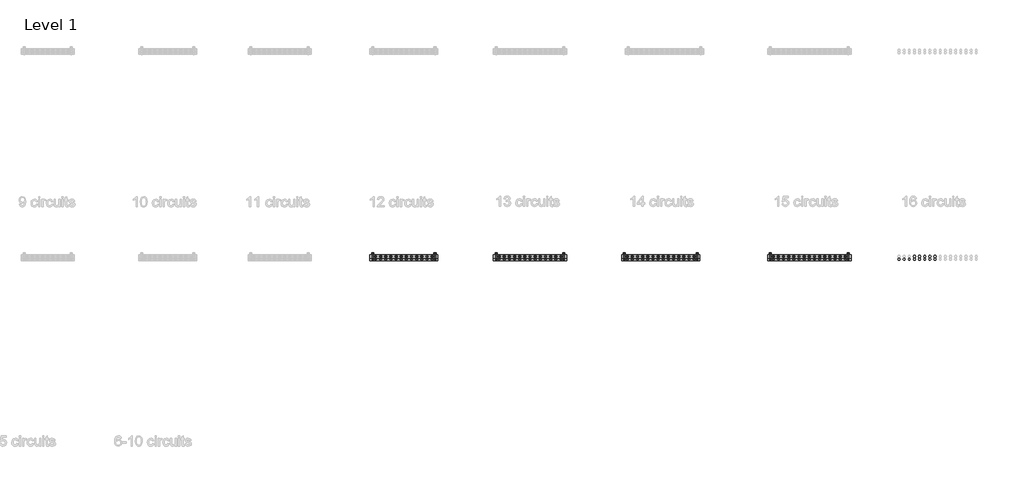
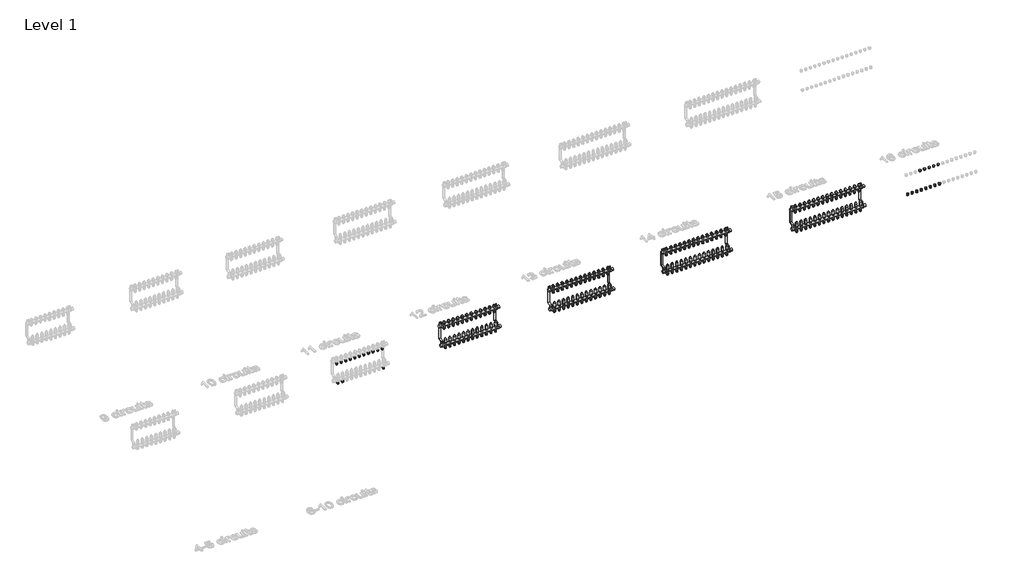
# One storey, part 2 of 13: 135 pipe fittings, 4 valves.
"""IFC4 building model written with IfcOpenShell, lengths in millimetres."""

from ifc_helpers import new_model, si_unit, origin, place, context, project, spatial, transform, mapped, element, save
from components import pipe_fitting_03c6499f, valve_b043caab, valve_d1a48dd4, valve_8c27288c, valve_323f5917, valve_2908c385, valve_c6b07a0e, valve_afcc5f03, valve_d5daf2db, valve_eef75e3c, valve_ba84b301, valve_6797e1c4, valve_e0eb0583, valve_b42ebe50, valve_7d993025, valve_5755080d, valve_f9b138b1

model = new_model("IFC4")

# Units and contexts
model_context = context("Model", 3, world=origin())
ifc_project = project(units=[si_unit("LENGTHUNIT", "METRE", prefix="MILLI")], contexts=[model_context])

# Site, building, storey
site = spatial("IfcSite", under=ifc_project)
building = spatial("IfcBuilding", under=site)
storey = spatial("IfcBuildingStorey", under=building, Name="Level 1", Elevation=0.0)

# Pipe fittings
placement = place(None, origin())
pipe_fitting_shape = pipe_fitting_03c6499f(model_context)
element("IfcPipeFitting", 1, ObjectType="Euroconus screwing for multilayer pipes - Manifold FT : Euroconus screwing for multilayer pipes - Manifold FT", at=placement, inside=storey, context=model_context, shape_type="MappedRepresentation", body=[
    mapped(pipe_fitting_shape, transform((10407.2354504, -417.6772226, -37.0816103), x_axis=(0.0, 0.0, -1.0), y_axis=(0.0, 1.0000000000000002, 0.0), z_axis=(1.0000000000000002, 0.0, 0.0))),
])
element("IfcPipeFitting", 2, ObjectType="Euroconus screwing for multilayer pipes - Manifold FT : Euroconus screwing for multilayer pipes - Manifold FT", at=placement, inside=storey, context=model_context, shape_type="MappedRepresentation", body=[
    mapped(pipe_fitting_shape, transform((10857.2354504, -417.6772226, -37.0816103), x_axis=(0.0, 0.0, -1.0), y_axis=(0.0, 1.0000000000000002, 0.0), z_axis=(1.0000000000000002, 0.0, 0.0))),
])
element("IfcPipeFitting", 3, ObjectType="Euroconus screwing for multilayer pipes - Manifold FT : Euroconus screwing for multilayer pipes - Manifold FT", at=placement, inside=storey, context=model_context, shape_type="MappedRepresentation", body=[
    mapped(pipe_fitting_shape, transform((10357.2354504, -417.6772226, -37.0816103), x_axis=(0.0, 0.0, -1.0), y_axis=(0.0, 1.0000000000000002, 0.0), z_axis=(1.0000000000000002, 0.0, 0.0))),
])
element("IfcPipeFitting", 4, ObjectType="Euroconus screwing for multilayer pipes - Manifold FT : Euroconus screwing for multilayer pipes - Manifold FT", at=placement, inside=storey, context=model_context, shape_type="MappedRepresentation", body=[
    mapped(pipe_fitting_shape, transform((10807.2354504, -392.6772226, 172.88733), x_axis=(0.0, 0.0, -1.0), y_axis=(0.0, 1.0000000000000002, 0.0), z_axis=(1.0000000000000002, 0.0, 0.0))),
])
element("IfcPipeFitting", 5, ObjectType="Euroconus screwing for multilayer pipes - Manifold FT : Euroconus screwing for multilayer pipes - Manifold FT", at=placement, inside=storey, context=model_context, shape_type="MappedRepresentation", body=[
    mapped(pipe_fitting_shape, transform((10757.2354504, -392.6772226, 172.88733), x_axis=(0.0, 0.0, -1.0), y_axis=(0.0, 1.0000000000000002, 0.0), z_axis=(1.0000000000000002, 0.0, 0.0))),
])
element("IfcPipeFitting", 6, ObjectType="Euroconus screwing for multilayer pipes - Manifold FT : Euroconus screwing for multilayer pipes - Manifold FT", at=placement, inside=storey, context=model_context, shape_type="MappedRepresentation", body=[
    mapped(pipe_fitting_shape, transform((10707.2354504, -392.6772226, 172.88733), x_axis=(0.0, 0.0, -1.0), y_axis=(0.0, 1.0000000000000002, 0.0), z_axis=(1.0000000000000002, 0.0, 0.0))),
])
element("IfcPipeFitting", 7, ObjectType="Euroconus screwing for multilayer pipes - Manifold FT : Euroconus screwing for multilayer pipes - Manifold FT", at=placement, inside=storey, context=model_context, shape_type="MappedRepresentation", body=[
    mapped(pipe_fitting_shape, transform((10657.2354504, -392.6772226, 172.88733), x_axis=(0.0, 0.0, -1.0), y_axis=(0.0, 1.0000000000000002, 0.0), z_axis=(1.0000000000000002, 0.0, 0.0))),
])
element("IfcPipeFitting", 8, ObjectType="Euroconus screwing for multilayer pipes - Manifold FT : Euroconus screwing for multilayer pipes - Manifold FT", at=placement, inside=storey, context=model_context, shape_type="MappedRepresentation", body=[
    mapped(pipe_fitting_shape, transform((10607.2354504, -392.6772226, 172.88733), x_axis=(0.0, 0.0, -1.0), y_axis=(0.0, 1.0000000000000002, 0.0), z_axis=(1.0000000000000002, 0.0, 0.0))),
])
element("IfcPipeFitting", 9, ObjectType="Euroconus screwing for multilayer pipes - Manifold FT : Euroconus screwing for multilayer pipes - Manifold FT", at=placement, inside=storey, context=model_context, shape_type="MappedRepresentation", body=[
    mapped(pipe_fitting_shape, transform((10557.2354504, -392.6772226, 172.88733), x_axis=(0.0, 0.0, -1.0), y_axis=(0.0, 1.0000000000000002, 0.0), z_axis=(1.0000000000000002, 0.0, 0.0))),
])
element("IfcPipeFitting", 10, ObjectType="Euroconus screwing for multilayer pipes - Manifold FT : Euroconus screwing for multilayer pipes - Manifold FT", at=placement, inside=storey, context=model_context, shape_type="MappedRepresentation", body=[
    mapped(pipe_fitting_shape, transform((10507.2354504, -392.6772226, 172.88733), x_axis=(0.0, 0.0, -1.0), y_axis=(0.0, 1.0000000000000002, 0.0), z_axis=(1.0000000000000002, 0.0, 0.0))),
])
element("IfcPipeFitting", 11, ObjectType="Euroconus screwing for multilayer pipes - Manifold FT : Euroconus screwing for multilayer pipes - Manifold FT", at=placement, inside=storey, context=model_context, shape_type="MappedRepresentation", body=[
    mapped(pipe_fitting_shape, transform((10457.2354504, -392.6772226, 172.88733), x_axis=(0.0, 0.0, -1.0), y_axis=(0.0, 1.0000000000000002, 0.0), z_axis=(1.0000000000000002, 0.0, 0.0))),
])
element("IfcPipeFitting", 12, ObjectType="Euroconus screwing for multilayer pipes - Manifold FT : Euroconus screwing for multilayer pipes - Manifold FT", at=placement, inside=storey, context=model_context, shape_type="MappedRepresentation", body=[
    mapped(pipe_fitting_shape, transform((10407.2354504, -392.6772226, 172.88733), x_axis=(0.0, 0.0, -1.0), y_axis=(0.0, 1.0000000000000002, 0.0), z_axis=(1.0000000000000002, 0.0, 0.0))),
])
element("IfcPipeFitting", 13, ObjectType="Euroconus screwing for multilayer pipes - Manifold FT : Euroconus screwing for multilayer pipes - Manifold FT", at=placement, inside=storey, context=model_context, shape_type="MappedRepresentation", body=[
    mapped(pipe_fitting_shape, transform((10857.2354504, -392.6772226, 172.88733), x_axis=(0.0, 0.0, -1.0), y_axis=(0.0, 1.0000000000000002, 0.0), z_axis=(1.0000000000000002, 0.0, 0.0))),
])
element("IfcPipeFitting", 14, ObjectType="Euroconus screwing for multilayer pipes - Manifold FT : Euroconus screwing for multilayer pipes - Manifold FT", at=placement, inside=storey, context=model_context, shape_type="MappedRepresentation", body=[
    mapped(pipe_fitting_shape, transform((10357.2354504, -392.6772226, 172.88733), x_axis=(0.0, 0.0, -1.0), y_axis=(0.0, 1.0000000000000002, 0.0), z_axis=(1.0000000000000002, 0.0, 0.0))),
])
element("IfcPipeFitting", 15, ObjectType="Euroconus screwing for multilayer pipes - Manifold FT : Euroconus screwing for multilayer pipes - Manifold FT", at=placement, inside=storey, context=model_context, shape_type="MappedRepresentation", body=[
    mapped(pipe_fitting_shape, transform((12037.2354504, -417.6772226, -37.0816103), x_axis=(0.0, 0.0, -1.0), y_axis=(0.0, 1.0000000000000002, 0.0), z_axis=(1.0000000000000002, 0.0, 0.0))),
])
element("IfcPipeFitting", 16, ObjectType="Euroconus screwing for multilayer pipes - Manifold FT : Euroconus screwing for multilayer pipes - Manifold FT", at=placement, inside=storey, context=model_context, shape_type="MappedRepresentation", body=[
    mapped(pipe_fitting_shape, transform((11987.2354504, -417.6772226, -37.0816103), x_axis=(0.0, 0.0, -1.0), y_axis=(0.0, 1.0000000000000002, 0.0), z_axis=(1.0000000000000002, 0.0, 0.0))),
])
element("IfcPipeFitting", 17, ObjectType="Euroconus screwing for multilayer pipes - Manifold FT : Euroconus screwing for multilayer pipes - Manifold FT", at=placement, inside=storey, context=model_context, shape_type="MappedRepresentation", body=[
    mapped(pipe_fitting_shape, transform((11937.2354504, -417.6772226, -37.0816103), x_axis=(0.0, 0.0, -1.0), y_axis=(0.0, 1.0000000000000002, 0.0), z_axis=(1.0000000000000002, 0.0, 0.0))),
])
element("IfcPipeFitting", 18, ObjectType="Euroconus screwing for multilayer pipes - Manifold FT : Euroconus screwing for multilayer pipes - Manifold FT", at=placement, inside=storey, context=model_context, shape_type="MappedRepresentation", body=[
    mapped(pipe_fitting_shape, transform((11887.2354504, -417.6772226, -37.0816103), x_axis=(0.0, 0.0, -1.0), y_axis=(0.0, 1.0000000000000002, 0.0), z_axis=(1.0000000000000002, 0.0, 0.0))),
])
element("IfcPipeFitting", 19, ObjectType="Euroconus screwing for multilayer pipes - Manifold FT : Euroconus screwing for multilayer pipes - Manifold FT", at=placement, inside=storey, context=model_context, shape_type="MappedRepresentation", body=[
    mapped(pipe_fitting_shape, transform((11837.2354504, -417.6772226, -37.0816103), x_axis=(0.0, 0.0, -1.0), y_axis=(0.0, 1.0000000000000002, 0.0), z_axis=(1.0000000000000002, 0.0, 0.0))),
])
element("IfcPipeFitting", 20, ObjectType="Euroconus screwing for multilayer pipes - Manifold FT : Euroconus screwing for multilayer pipes - Manifold FT", at=placement, inside=storey, context=model_context, shape_type="MappedRepresentation", body=[
    mapped(pipe_fitting_shape, transform((11787.2354504, -417.6772226, -37.0816103), x_axis=(0.0, 0.0, -1.0), y_axis=(0.0, 1.0000000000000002, 0.0), z_axis=(1.0000000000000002, 0.0, 0.0))),
])
element("IfcPipeFitting", 21, ObjectType="Euroconus screwing for multilayer pipes - Manifold FT : Euroconus screwing for multilayer pipes - Manifold FT", at=placement, inside=storey, context=model_context, shape_type="MappedRepresentation", body=[
    mapped(pipe_fitting_shape, transform((11737.2354504, -417.6772226, -37.0816103), x_axis=(0.0, 0.0, -1.0), y_axis=(0.0, 1.0000000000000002, 0.0), z_axis=(1.0000000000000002, 0.0, 0.0))),
])
element("IfcPipeFitting", 22, ObjectType="Euroconus screwing for multilayer pipes - Manifold FT : Euroconus screwing for multilayer pipes - Manifold FT", at=placement, inside=storey, context=model_context, shape_type="MappedRepresentation", body=[
    mapped(pipe_fitting_shape, transform((11687.2354504, -417.6772226, -37.0816103), x_axis=(0.0, 0.0, -1.0), y_axis=(0.0, 1.0000000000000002, 0.0), z_axis=(1.0000000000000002, 0.0, 0.0))),
])
element("IfcPipeFitting", 23, ObjectType="Euroconus screwing for multilayer pipes - Manifold FT : Euroconus screwing for multilayer pipes - Manifold FT", at=placement, inside=storey, context=model_context, shape_type="MappedRepresentation", body=[
    mapped(pipe_fitting_shape, transform((11637.2354504, -417.6772226, -37.0816103), x_axis=(0.0, 0.0, -1.0), y_axis=(0.0, 1.0000000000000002, 0.0), z_axis=(1.0000000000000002, 0.0, 0.0))),
])
element("IfcPipeFitting", 24, ObjectType="Euroconus screwing for multilayer pipes - Manifold FT : Euroconus screwing for multilayer pipes - Manifold FT", at=placement, inside=storey, context=model_context, shape_type="MappedRepresentation", body=[
    mapped(pipe_fitting_shape, transform((11587.2354504, -417.6772226, -37.0816103), x_axis=(0.0, 0.0, -1.0), y_axis=(0.0, 1.0000000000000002, 0.0), z_axis=(1.0000000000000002, 0.0, 0.0))),
])
element("IfcPipeFitting", 25, ObjectType="Euroconus screwing for multilayer pipes - Manifold FT : Euroconus screwing for multilayer pipes - Manifold FT", at=placement, inside=storey, context=model_context, shape_type="MappedRepresentation", body=[
    mapped(pipe_fitting_shape, transform((12087.2354504, -417.6772226, -37.0816103), x_axis=(0.0, 0.0, -1.0), y_axis=(0.0, 1.0000000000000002, 0.0), z_axis=(1.0000000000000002, 0.0, 0.0))),
])
element("IfcPipeFitting", 26, ObjectType="Euroconus screwing for multilayer pipes - Manifold FT : Euroconus screwing for multilayer pipes - Manifold FT", at=placement, inside=storey, context=model_context, shape_type="MappedRepresentation", body=[
    mapped(pipe_fitting_shape, transform((11537.2354504, -417.6772226, -37.0816103), x_axis=(0.0, 0.0, -1.0), y_axis=(0.0, 1.0000000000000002, 0.0), z_axis=(1.0000000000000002, 0.0, 0.0))),
])
element("IfcPipeFitting", 27, ObjectType="Euroconus screwing for multilayer pipes - Manifold FT : Euroconus screwing for multilayer pipes - Manifold FT", at=placement, inside=storey, context=model_context, shape_type="MappedRepresentation", body=[
    mapped(pipe_fitting_shape, transform((12037.2354504, -392.6772226, 172.88733), x_axis=(0.0, 0.0, -1.0), y_axis=(0.0, 1.0000000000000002, 0.0), z_axis=(1.0000000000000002, 0.0, 0.0))),
])
element("IfcPipeFitting", 28, ObjectType="Euroconus screwing for multilayer pipes - Manifold FT : Euroconus screwing for multilayer pipes - Manifold FT", at=placement, inside=storey, context=model_context, shape_type="MappedRepresentation", body=[
    mapped(pipe_fitting_shape, transform((11987.2354504, -392.6772226, 172.88733), x_axis=(0.0, 0.0, -1.0), y_axis=(0.0, 1.0000000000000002, 0.0), z_axis=(1.0000000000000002, 0.0, 0.0))),
])
element("IfcPipeFitting", 29, ObjectType="Euroconus screwing for multilayer pipes - Manifold FT : Euroconus screwing for multilayer pipes - Manifold FT", at=placement, inside=storey, context=model_context, shape_type="MappedRepresentation", body=[
    mapped(pipe_fitting_shape, transform((11937.2354504, -392.6772226, 172.88733), x_axis=(0.0, 0.0, -1.0), y_axis=(0.0, 1.0000000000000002, 0.0), z_axis=(1.0000000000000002, 0.0, 0.0))),
])
element("IfcPipeFitting", 30, ObjectType="Euroconus screwing for multilayer pipes - Manifold FT : Euroconus screwing for multilayer pipes - Manifold FT", at=placement, inside=storey, context=model_context, shape_type="MappedRepresentation", body=[
    mapped(pipe_fitting_shape, transform((11887.2354504, -392.6772226, 172.88733), x_axis=(0.0, 0.0, -1.0), y_axis=(0.0, 1.0000000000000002, 0.0), z_axis=(1.0000000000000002, 0.0, 0.0))),
])
element("IfcPipeFitting", 31, ObjectType="Euroconus screwing for multilayer pipes - Manifold FT : Euroconus screwing for multilayer pipes - Manifold FT", at=placement, inside=storey, context=model_context, shape_type="MappedRepresentation", body=[
    mapped(pipe_fitting_shape, transform((11837.2354504, -392.6772226, 172.88733), x_axis=(0.0, 0.0, -1.0), y_axis=(0.0, 1.0000000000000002, 0.0), z_axis=(1.0000000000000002, 0.0, 0.0))),
])
element("IfcPipeFitting", 32, ObjectType="Euroconus screwing for multilayer pipes - Manifold FT : Euroconus screwing for multilayer pipes - Manifold FT", at=placement, inside=storey, context=model_context, shape_type="MappedRepresentation", body=[
    mapped(pipe_fitting_shape, transform((11787.2354504, -392.6772226, 172.88733), x_axis=(0.0, 0.0, -1.0), y_axis=(0.0, 1.0000000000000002, 0.0), z_axis=(1.0000000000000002, 0.0, 0.0))),
])
element("IfcPipeFitting", 33, ObjectType="Euroconus screwing for multilayer pipes - Manifold FT : Euroconus screwing for multilayer pipes - Manifold FT", at=placement, inside=storey, context=model_context, shape_type="MappedRepresentation", body=[
    mapped(pipe_fitting_shape, transform((11737.2354504, -392.6772226, 172.88733), x_axis=(0.0, 0.0, -1.0), y_axis=(0.0, 1.0000000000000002, 0.0), z_axis=(1.0000000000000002, 0.0, 0.0))),
])
element("IfcPipeFitting", 34, ObjectType="Euroconus screwing for multilayer pipes - Manifold FT : Euroconus screwing for multilayer pipes - Manifold FT", at=placement, inside=storey, context=model_context, shape_type="MappedRepresentation", body=[
    mapped(pipe_fitting_shape, transform((11687.2354504, -392.6772226, 172.88733), x_axis=(0.0, 0.0, -1.0), y_axis=(0.0, 1.0000000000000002, 0.0), z_axis=(1.0000000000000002, 0.0, 0.0))),
])
element("IfcPipeFitting", 35, ObjectType="Euroconus screwing for multilayer pipes - Manifold FT : Euroconus screwing for multilayer pipes - Manifold FT", at=placement, inside=storey, context=model_context, shape_type="MappedRepresentation", body=[
    mapped(pipe_fitting_shape, transform((11637.2354504, -392.6772226, 172.88733), x_axis=(0.0, 0.0, -1.0), y_axis=(0.0, 1.0000000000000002, 0.0), z_axis=(1.0000000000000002, 0.0, 0.0))),
])
element("IfcPipeFitting", 36, ObjectType="Euroconus screwing for multilayer pipes - Manifold FT : Euroconus screwing for multilayer pipes - Manifold FT", at=placement, inside=storey, context=model_context, shape_type="MappedRepresentation", body=[
    mapped(pipe_fitting_shape, transform((11587.2354504, -392.6772226, 172.88733), x_axis=(0.0, 0.0, -1.0), y_axis=(0.0, 1.0000000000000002, 0.0), z_axis=(1.0000000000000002, 0.0, 0.0))),
])
element("IfcPipeFitting", 37, ObjectType="Euroconus screwing for multilayer pipes - Manifold FT : Euroconus screwing for multilayer pipes - Manifold FT", at=placement, inside=storey, context=model_context, shape_type="MappedRepresentation", body=[
    mapped(pipe_fitting_shape, transform((12087.2354504, -392.6772226, 172.88733), x_axis=(0.0, 0.0, -1.0), y_axis=(0.0, 1.0000000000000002, 0.0), z_axis=(1.0000000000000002, 0.0, 0.0))),
])
element("IfcPipeFitting", 38, ObjectType="Euroconus screwing for multilayer pipes - Manifold FT : Euroconus screwing for multilayer pipes - Manifold FT", at=placement, inside=storey, context=model_context, shape_type="MappedRepresentation", body=[
    mapped(pipe_fitting_shape, transform((11537.2354504, -392.6772226, 172.88733), x_axis=(0.0, 0.0, -1.0), y_axis=(0.0, 1.0000000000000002, 0.0), z_axis=(1.0000000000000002, 0.0, 0.0))),
])
element("IfcPipeFitting", 39, ObjectType="Euroconus screwing for multilayer pipes - Manifold FT : Euroconus screwing for multilayer pipes - Manifold FT", at=placement, inside=storey, context=model_context, shape_type="MappedRepresentation", body=[
    mapped(pipe_fitting_shape, transform((13287.2354504, -417.6772226, -37.0816103), x_axis=(0.0, 0.0, -1.0), y_axis=(0.0, 1.0000000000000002, 0.0), z_axis=(1.0000000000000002, 0.0, 0.0))),
])
element("IfcPipeFitting", 40, ObjectType="Euroconus screwing for multilayer pipes - Manifold FT : Euroconus screwing for multilayer pipes - Manifold FT", at=placement, inside=storey, context=model_context, shape_type="MappedRepresentation", body=[
    mapped(pipe_fitting_shape, transform((13237.2354504, -417.6772226, -37.0816103), x_axis=(0.0, 0.0, -1.0), y_axis=(0.0, 1.0000000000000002, 0.0), z_axis=(1.0000000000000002, 0.0, 0.0))),
])
element("IfcPipeFitting", 41, ObjectType="Euroconus screwing for multilayer pipes - Manifold FT : Euroconus screwing for multilayer pipes - Manifold FT", at=placement, inside=storey, context=model_context, shape_type="MappedRepresentation", body=[
    mapped(pipe_fitting_shape, transform((13187.2354504, -417.6772226, -37.0816103), x_axis=(0.0, 0.0, -1.0), y_axis=(0.0, 1.0000000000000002, 0.0), z_axis=(1.0000000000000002, 0.0, 0.0))),
])
element("IfcPipeFitting", 42, ObjectType="Euroconus screwing for multilayer pipes - Manifold FT : Euroconus screwing for multilayer pipes - Manifold FT", at=placement, inside=storey, context=model_context, shape_type="MappedRepresentation", body=[
    mapped(pipe_fitting_shape, transform((13137.2354504, -417.6772226, -37.0816103), x_axis=(0.0, 0.0, -1.0), y_axis=(0.0, 1.0000000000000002, 0.0), z_axis=(1.0000000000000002, 0.0, 0.0))),
])
element("IfcPipeFitting", 43, ObjectType="Euroconus screwing for multilayer pipes - Manifold FT : Euroconus screwing for multilayer pipes - Manifold FT", at=placement, inside=storey, context=model_context, shape_type="MappedRepresentation", body=[
    mapped(pipe_fitting_shape, transform((13087.2354504, -417.6772226, -37.0816103), x_axis=(0.0, 0.0, -1.0), y_axis=(0.0, 1.0000000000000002, 0.0), z_axis=(1.0000000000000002, 0.0, 0.0))),
])
element("IfcPipeFitting", 44, ObjectType="Euroconus screwing for multilayer pipes - Manifold FT : Euroconus screwing for multilayer pipes - Manifold FT", at=placement, inside=storey, context=model_context, shape_type="MappedRepresentation", body=[
    mapped(pipe_fitting_shape, transform((13037.2354504, -417.6772226, -37.0816103), x_axis=(0.0, 0.0, -1.0), y_axis=(0.0, 1.0000000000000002, 0.0), z_axis=(1.0000000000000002, 0.0, 0.0))),
])
element("IfcPipeFitting", 45, ObjectType="Euroconus screwing for multilayer pipes - Manifold FT : Euroconus screwing for multilayer pipes - Manifold FT", at=placement, inside=storey, context=model_context, shape_type="MappedRepresentation", body=[
    mapped(pipe_fitting_shape, transform((12987.2354504, -417.6772226, -37.0816103), x_axis=(0.0, 0.0, -1.0), y_axis=(0.0, 1.0000000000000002, 0.0), z_axis=(1.0000000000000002, 0.0, 0.0))),
])
element("IfcPipeFitting", 46, ObjectType="Euroconus screwing for multilayer pipes - Manifold FT : Euroconus screwing for multilayer pipes - Manifold FT", at=placement, inside=storey, context=model_context, shape_type="MappedRepresentation", body=[
    mapped(pipe_fitting_shape, transform((12937.2354504, -417.6772226, -37.0816103), x_axis=(0.0, 0.0, -1.0), y_axis=(0.0, 1.0000000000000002, 0.0), z_axis=(1.0000000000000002, 0.0, 0.0))),
])
element("IfcPipeFitting", 47, ObjectType="Euroconus screwing for multilayer pipes - Manifold FT : Euroconus screwing for multilayer pipes - Manifold FT", at=placement, inside=storey, context=model_context, shape_type="MappedRepresentation", body=[
    mapped(pipe_fitting_shape, transform((12887.2354504, -417.6772226, -37.0816103), x_axis=(0.0, 0.0, -1.0), y_axis=(0.0, 1.0000000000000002, 0.0), z_axis=(1.0000000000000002, 0.0, 0.0))),
])
element("IfcPipeFitting", 48, ObjectType="Euroconus screwing for multilayer pipes - Manifold FT : Euroconus screwing for multilayer pipes - Manifold FT", at=placement, inside=storey, context=model_context, shape_type="MappedRepresentation", body=[
    mapped(pipe_fitting_shape, transform((12837.2354504, -417.6772226, -37.0816103), x_axis=(0.0, 0.0, -1.0), y_axis=(0.0, 1.0000000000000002, 0.0), z_axis=(1.0000000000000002, 0.0, 0.0))),
])
element("IfcPipeFitting", 49, ObjectType="Euroconus screwing for multilayer pipes - Manifold FT : Euroconus screwing for multilayer pipes - Manifold FT", at=placement, inside=storey, context=model_context, shape_type="MappedRepresentation", body=[
    mapped(pipe_fitting_shape, transform((12787.2354504, -417.6772226, -37.0816103), x_axis=(0.0, 0.0, -1.0), y_axis=(0.0, 1.0000000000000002, 0.0), z_axis=(1.0000000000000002, 0.0, 0.0))),
])
element("IfcPipeFitting", 50, ObjectType="Euroconus screwing for multilayer pipes - Manifold FT : Euroconus screwing for multilayer pipes - Manifold FT", at=placement, inside=storey, context=model_context, shape_type="MappedRepresentation", body=[
    mapped(pipe_fitting_shape, transform((13337.2354504, -417.6772226, -37.0816103), x_axis=(0.0, 0.0, -1.0), y_axis=(0.0, 1.0000000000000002, 0.0), z_axis=(1.0000000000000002, 0.0, 0.0))),
])
element("IfcPipeFitting", 51, ObjectType="Euroconus screwing for multilayer pipes - Manifold FT : Euroconus screwing for multilayer pipes - Manifold FT", at=placement, inside=storey, context=model_context, shape_type="MappedRepresentation", body=[
    mapped(pipe_fitting_shape, transform((12737.2354504, -417.6772226, -37.0816103), x_axis=(0.0, 0.0, -1.0), y_axis=(0.0, 1.0000000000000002, 0.0), z_axis=(1.0000000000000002, 0.0, 0.0))),
])
element("IfcPipeFitting", 52, ObjectType="Euroconus screwing for multilayer pipes - Manifold FT : Euroconus screwing for multilayer pipes - Manifold FT", at=placement, inside=storey, context=model_context, shape_type="MappedRepresentation", body=[
    mapped(pipe_fitting_shape, transform((13287.2354504, -392.6772226, 172.88733), x_axis=(0.0, 0.0, -1.0), y_axis=(0.0, 1.0000000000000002, 0.0), z_axis=(1.0000000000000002, 0.0, 0.0))),
])
element("IfcPipeFitting", 53, ObjectType="Euroconus screwing for multilayer pipes - Manifold FT : Euroconus screwing for multilayer pipes - Manifold FT", at=placement, inside=storey, context=model_context, shape_type="MappedRepresentation", body=[
    mapped(pipe_fitting_shape, transform((13237.2354504, -392.6772226, 172.88733), x_axis=(0.0, 0.0, -1.0), y_axis=(0.0, 1.0000000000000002, 0.0), z_axis=(1.0000000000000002, 0.0, 0.0))),
])
element("IfcPipeFitting", 54, ObjectType="Euroconus screwing for multilayer pipes - Manifold FT : Euroconus screwing for multilayer pipes - Manifold FT", at=placement, inside=storey, context=model_context, shape_type="MappedRepresentation", body=[
    mapped(pipe_fitting_shape, transform((13187.2354504, -392.6772226, 172.88733), x_axis=(0.0, 0.0, -1.0), y_axis=(0.0, 1.0000000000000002, 0.0), z_axis=(1.0000000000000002, 0.0, 0.0))),
])
element("IfcPipeFitting", 55, ObjectType="Euroconus screwing for multilayer pipes - Manifold FT : Euroconus screwing for multilayer pipes - Manifold FT", at=placement, inside=storey, context=model_context, shape_type="MappedRepresentation", body=[
    mapped(pipe_fitting_shape, transform((13137.2354504, -392.6772226, 172.88733), x_axis=(0.0, 0.0, -1.0), y_axis=(0.0, 1.0000000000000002, 0.0), z_axis=(1.0000000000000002, 0.0, 0.0))),
])
element("IfcPipeFitting", 56, ObjectType="Euroconus screwing for multilayer pipes - Manifold FT : Euroconus screwing for multilayer pipes - Manifold FT", at=placement, inside=storey, context=model_context, shape_type="MappedRepresentation", body=[
    mapped(pipe_fitting_shape, transform((13087.2354504, -392.6772226, 172.88733), x_axis=(0.0, 0.0, -1.0), y_axis=(0.0, 1.0000000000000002, 0.0), z_axis=(1.0000000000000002, 0.0, 0.0))),
])
element("IfcPipeFitting", 57, ObjectType="Euroconus screwing for multilayer pipes - Manifold FT : Euroconus screwing for multilayer pipes - Manifold FT", at=placement, inside=storey, context=model_context, shape_type="MappedRepresentation", body=[
    mapped(pipe_fitting_shape, transform((13037.2354504, -392.6772226, 172.88733), x_axis=(0.0, 0.0, -1.0), y_axis=(0.0, 1.0000000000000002, 0.0), z_axis=(1.0000000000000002, 0.0, 0.0))),
])
element("IfcPipeFitting", 58, ObjectType="Euroconus screwing for multilayer pipes - Manifold FT : Euroconus screwing for multilayer pipes - Manifold FT", at=placement, inside=storey, context=model_context, shape_type="MappedRepresentation", body=[
    mapped(pipe_fitting_shape, transform((12987.2354504, -392.6772226, 172.88733), x_axis=(0.0, 0.0, -1.0), y_axis=(0.0, 1.0000000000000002, 0.0), z_axis=(1.0000000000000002, 0.0, 0.0))),
])
element("IfcPipeFitting", 59, ObjectType="Euroconus screwing for multilayer pipes - Manifold FT : Euroconus screwing for multilayer pipes - Manifold FT", at=placement, inside=storey, context=model_context, shape_type="MappedRepresentation", body=[
    mapped(pipe_fitting_shape, transform((12937.2354504, -392.6772226, 172.88733), x_axis=(0.0, 0.0, -1.0), y_axis=(0.0, 1.0000000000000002, 0.0), z_axis=(1.0000000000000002, 0.0, 0.0))),
])
element("IfcPipeFitting", 60, ObjectType="Euroconus screwing for multilayer pipes - Manifold FT : Euroconus screwing for multilayer pipes - Manifold FT", at=placement, inside=storey, context=model_context, shape_type="MappedRepresentation", body=[
    mapped(pipe_fitting_shape, transform((12887.2354504, -392.6772226, 172.88733), x_axis=(0.0, 0.0, -1.0), y_axis=(0.0, 1.0000000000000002, 0.0), z_axis=(1.0000000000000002, 0.0, 0.0))),
])
element("IfcPipeFitting", 61, ObjectType="Euroconus screwing for multilayer pipes - Manifold FT : Euroconus screwing for multilayer pipes - Manifold FT", at=placement, inside=storey, context=model_context, shape_type="MappedRepresentation", body=[
    mapped(pipe_fitting_shape, transform((12837.2354504, -392.6772226, 172.88733), x_axis=(0.0, 0.0, -1.0), y_axis=(0.0, 1.0000000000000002, 0.0), z_axis=(1.0000000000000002, 0.0, 0.0))),
])
element("IfcPipeFitting", 62, ObjectType="Euroconus screwing for multilayer pipes - Manifold FT : Euroconus screwing for multilayer pipes - Manifold FT", at=placement, inside=storey, context=model_context, shape_type="MappedRepresentation", body=[
    mapped(pipe_fitting_shape, transform((12787.2354504, -392.6772226, 172.88733), x_axis=(0.0, 0.0, -1.0), y_axis=(0.0, 1.0000000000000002, 0.0), z_axis=(1.0000000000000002, 0.0, 0.0))),
])
element("IfcPipeFitting", 63, ObjectType="Euroconus screwing for multilayer pipes - Manifold FT : Euroconus screwing for multilayer pipes - Manifold FT", at=placement, inside=storey, context=model_context, shape_type="MappedRepresentation", body=[
    mapped(pipe_fitting_shape, transform((13337.2354504, -392.6772226, 172.88733), x_axis=(0.0, 0.0, -1.0), y_axis=(0.0, 1.0000000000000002, 0.0), z_axis=(1.0000000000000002, 0.0, 0.0))),
])
element("IfcPipeFitting", 64, ObjectType="Euroconus screwing for multilayer pipes - Manifold FT : Euroconus screwing for multilayer pipes - Manifold FT", at=placement, inside=storey, context=model_context, shape_type="MappedRepresentation", body=[
    mapped(pipe_fitting_shape, transform((12737.2354504, -392.6772226, 172.88733), x_axis=(0.0, 0.0, -1.0), y_axis=(0.0, 1.0000000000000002, 0.0), z_axis=(1.0000000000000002, 0.0, 0.0))),
])
element("IfcPipeFitting", 65, ObjectType="Euroconus screwing for multilayer pipes - Manifold FT : Euroconus screwing for multilayer pipes - Manifold FT", at=placement, inside=storey, context=model_context, shape_type="MappedRepresentation", body=[
    mapped(pipe_fitting_shape, transform((14580.008683, -417.6772226, -37.0816103), x_axis=(0.0, 0.0, -1.0), y_axis=(0.0, 1.0000000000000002, 0.0), z_axis=(1.0000000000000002, 0.0, 0.0))),
])
element("IfcPipeFitting", 66, ObjectType="Euroconus screwing for multilayer pipes - Manifold FT : Euroconus screwing for multilayer pipes - Manifold FT", at=placement, inside=storey, context=model_context, shape_type="MappedRepresentation", body=[
    mapped(pipe_fitting_shape, transform((14530.008683, -417.6772226, -37.0816103), x_axis=(0.0, 0.0, -1.0), y_axis=(0.0, 1.0000000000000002, 0.0), z_axis=(1.0000000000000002, 0.0, 0.0))),
])
element("IfcPipeFitting", 67, ObjectType="Euroconus screwing for multilayer pipes - Manifold FT : Euroconus screwing for multilayer pipes - Manifold FT", at=placement, inside=storey, context=model_context, shape_type="MappedRepresentation", body=[
    mapped(pipe_fitting_shape, transform((14480.008683, -417.6772226, -37.0816103), x_axis=(0.0, 0.0, -1.0), y_axis=(0.0, 1.0000000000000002, 0.0), z_axis=(1.0000000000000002, 0.0, 0.0))),
])
element("IfcPipeFitting", 68, ObjectType="Euroconus screwing for multilayer pipes - Manifold FT : Euroconus screwing for multilayer pipes - Manifold FT", at=placement, inside=storey, context=model_context, shape_type="MappedRepresentation", body=[
    mapped(pipe_fitting_shape, transform((14430.008683, -417.6772226, -37.0816103), x_axis=(0.0, 0.0, -1.0), y_axis=(0.0, 1.0000000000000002, 0.0), z_axis=(1.0000000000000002, 0.0, 0.0))),
])
element("IfcPipeFitting", 69, ObjectType="Euroconus screwing for multilayer pipes - Manifold FT : Euroconus screwing for multilayer pipes - Manifold FT", at=placement, inside=storey, context=model_context, shape_type="MappedRepresentation", body=[
    mapped(pipe_fitting_shape, transform((14380.008683, -417.6772226, -37.0816103), x_axis=(0.0, 0.0, -1.0), y_axis=(0.0, 1.0000000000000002, 0.0), z_axis=(1.0000000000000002, 0.0, 0.0))),
])
element("IfcPipeFitting", 70, ObjectType="Euroconus screwing for multilayer pipes - Manifold FT : Euroconus screwing for multilayer pipes - Manifold FT", at=placement, inside=storey, context=model_context, shape_type="MappedRepresentation", body=[
    mapped(pipe_fitting_shape, transform((14330.008683, -417.6772226, -37.0816103), x_axis=(0.0, 0.0, -1.0), y_axis=(0.0, 1.0000000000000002, 0.0), z_axis=(1.0000000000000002, 0.0, 0.0))),
])
element("IfcPipeFitting", 71, ObjectType="Euroconus screwing for multilayer pipes - Manifold FT : Euroconus screwing for multilayer pipes - Manifold FT", at=placement, inside=storey, context=model_context, shape_type="MappedRepresentation", body=[
    mapped(pipe_fitting_shape, transform((14280.008683, -417.6772226, -37.0816103), x_axis=(0.0, 0.0, -1.0), y_axis=(0.0, 1.0000000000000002, 0.0), z_axis=(1.0000000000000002, 0.0, 0.0))),
])
element("IfcPipeFitting", 72, ObjectType="Euroconus screwing for multilayer pipes - Manifold FT : Euroconus screwing for multilayer pipes - Manifold FT", at=placement, inside=storey, context=model_context, shape_type="MappedRepresentation", body=[
    mapped(pipe_fitting_shape, transform((14230.008683, -417.6772226, -37.0816103), x_axis=(0.0, 0.0, -1.0), y_axis=(0.0, 1.0000000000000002, 0.0), z_axis=(1.0000000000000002, 0.0, 0.0))),
])
element("IfcPipeFitting", 73, ObjectType="Euroconus screwing for multilayer pipes - Manifold FT : Euroconus screwing for multilayer pipes - Manifold FT", at=placement, inside=storey, context=model_context, shape_type="MappedRepresentation", body=[
    mapped(pipe_fitting_shape, transform((14180.008683, -417.6772226, -37.0816103), x_axis=(0.0, 0.0, -1.0), y_axis=(0.0, 1.0000000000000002, 0.0), z_axis=(1.0000000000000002, 0.0, 0.0))),
])
element("IfcPipeFitting", 74, ObjectType="Euroconus screwing for multilayer pipes - Manifold FT : Euroconus screwing for multilayer pipes - Manifold FT", at=placement, inside=storey, context=model_context, shape_type="MappedRepresentation", body=[
    mapped(pipe_fitting_shape, transform((14130.008683, -417.6772226, -37.0816103), x_axis=(0.0, 0.0, -1.0), y_axis=(0.0, 1.0000000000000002, 0.0), z_axis=(1.0000000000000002, 0.0, 0.0))),
])
element("IfcPipeFitting", 75, ObjectType="Euroconus screwing for multilayer pipes - Manifold FT : Euroconus screwing for multilayer pipes - Manifold FT", at=placement, inside=storey, context=model_context, shape_type="MappedRepresentation", body=[
    mapped(pipe_fitting_shape, transform((14080.008683, -417.6772226, -37.0816103), x_axis=(0.0, 0.0, -1.0), y_axis=(0.0, 1.0000000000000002, 0.0), z_axis=(1.0000000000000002, 0.0, 0.0))),
])
element("IfcPipeFitting", 76, ObjectType="Euroconus screwing for multilayer pipes - Manifold FT : Euroconus screwing for multilayer pipes - Manifold FT", at=placement, inside=storey, context=model_context, shape_type="MappedRepresentation", body=[
    mapped(pipe_fitting_shape, transform((14030.008683, -417.6772226, -37.0816103), x_axis=(0.0, 0.0, -1.0), y_axis=(0.0, 1.0000000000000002, 0.0), z_axis=(1.0000000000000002, 0.0, 0.0))),
])
element("IfcPipeFitting", 77, ObjectType="Euroconus screwing for multilayer pipes - Manifold FT : Euroconus screwing for multilayer pipes - Manifold FT", at=placement, inside=storey, context=model_context, shape_type="MappedRepresentation", body=[
    mapped(pipe_fitting_shape, transform((14630.008683, -417.6772226, -37.0816103), x_axis=(0.0, 0.0, -1.0), y_axis=(0.0, 1.0000000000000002, 0.0), z_axis=(1.0000000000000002, 0.0, 0.0))),
])
element("IfcPipeFitting", 78, ObjectType="Euroconus screwing for multilayer pipes - Manifold FT : Euroconus screwing for multilayer pipes - Manifold FT", at=placement, inside=storey, context=model_context, shape_type="MappedRepresentation", body=[
    mapped(pipe_fitting_shape, transform((13980.008683, -417.6772226, -37.0816103), x_axis=(0.0, 0.0, -1.0), y_axis=(0.0, 1.0000000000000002, 0.0), z_axis=(1.0000000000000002, 0.0, 0.0))),
])
element("IfcPipeFitting", 79, ObjectType="Euroconus screwing for multilayer pipes - Manifold FT : Euroconus screwing for multilayer pipes - Manifold FT", at=placement, inside=storey, context=model_context, shape_type="MappedRepresentation", body=[
    mapped(pipe_fitting_shape, transform((14580.008683, -392.6772226, 172.88733), x_axis=(0.0, 0.0, -1.0), y_axis=(0.0, 1.0000000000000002, 0.0), z_axis=(1.0000000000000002, 0.0, 0.0))),
])
element("IfcPipeFitting", 80, ObjectType="Euroconus screwing for multilayer pipes - Manifold FT : Euroconus screwing for multilayer pipes - Manifold FT", at=placement, inside=storey, context=model_context, shape_type="MappedRepresentation", body=[
    mapped(pipe_fitting_shape, transform((14530.008683, -392.6772226, 172.88733), x_axis=(0.0, 0.0, -1.0), y_axis=(0.0, 1.0000000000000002, 0.0), z_axis=(1.0000000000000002, 0.0, 0.0))),
])
element("IfcPipeFitting", 81, ObjectType="Euroconus screwing for multilayer pipes - Manifold FT : Euroconus screwing for multilayer pipes - Manifold FT", at=placement, inside=storey, context=model_context, shape_type="MappedRepresentation", body=[
    mapped(pipe_fitting_shape, transform((14480.008683, -392.6772226, 172.88733), x_axis=(0.0, 0.0, -1.0), y_axis=(0.0, 1.0000000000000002, 0.0), z_axis=(1.0000000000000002, 0.0, 0.0))),
])
element("IfcPipeFitting", 82, ObjectType="Euroconus screwing for multilayer pipes - Manifold FT : Euroconus screwing for multilayer pipes - Manifold FT", at=placement, inside=storey, context=model_context, shape_type="MappedRepresentation", body=[
    mapped(pipe_fitting_shape, transform((14430.008683, -392.6772226, 172.88733), x_axis=(0.0, 0.0, -1.0), y_axis=(0.0, 1.0000000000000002, 0.0), z_axis=(1.0000000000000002, 0.0, 0.0))),
])
element("IfcPipeFitting", 83, ObjectType="Euroconus screwing for multilayer pipes - Manifold FT : Euroconus screwing for multilayer pipes - Manifold FT", at=placement, inside=storey, context=model_context, shape_type="MappedRepresentation", body=[
    mapped(pipe_fitting_shape, transform((14380.008683, -392.6772226, 172.88733), x_axis=(0.0, 0.0, -1.0), y_axis=(0.0, 1.0000000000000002, 0.0), z_axis=(1.0000000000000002, 0.0, 0.0))),
])
element("IfcPipeFitting", 84, ObjectType="Euroconus screwing for multilayer pipes - Manifold FT : Euroconus screwing for multilayer pipes - Manifold FT", at=placement, inside=storey, context=model_context, shape_type="MappedRepresentation", body=[
    mapped(pipe_fitting_shape, transform((14330.008683, -392.6772226, 172.88733), x_axis=(0.0, 0.0, -1.0), y_axis=(0.0, 1.0000000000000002, 0.0), z_axis=(1.0000000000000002, 0.0, 0.0))),
])
element("IfcPipeFitting", 85, ObjectType="Euroconus screwing for multilayer pipes - Manifold FT : Euroconus screwing for multilayer pipes - Manifold FT", at=placement, inside=storey, context=model_context, shape_type="MappedRepresentation", body=[
    mapped(pipe_fitting_shape, transform((14280.008683, -392.6772226, 172.88733), x_axis=(0.0, 0.0, -1.0), y_axis=(0.0, 1.0000000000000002, 0.0), z_axis=(1.0000000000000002, 0.0, 0.0))),
])
element("IfcPipeFitting", 86, ObjectType="Euroconus screwing for multilayer pipes - Manifold FT : Euroconus screwing for multilayer pipes - Manifold FT", at=placement, inside=storey, context=model_context, shape_type="MappedRepresentation", body=[
    mapped(pipe_fitting_shape, transform((14230.008683, -392.6772226, 172.88733), x_axis=(0.0, 0.0, -1.0), y_axis=(0.0, 1.0000000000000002, 0.0), z_axis=(1.0000000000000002, 0.0, 0.0))),
])
element("IfcPipeFitting", 87, ObjectType="Euroconus screwing for multilayer pipes - Manifold FT : Euroconus screwing for multilayer pipes - Manifold FT", at=placement, inside=storey, context=model_context, shape_type="MappedRepresentation", body=[
    mapped(pipe_fitting_shape, transform((14180.008683, -392.6772226, 172.88733), x_axis=(0.0, 0.0, -1.0), y_axis=(0.0, 1.0000000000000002, 0.0), z_axis=(1.0000000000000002, 0.0, 0.0))),
])
element("IfcPipeFitting", 88, ObjectType="Euroconus screwing for multilayer pipes - Manifold FT : Euroconus screwing for multilayer pipes - Manifold FT", at=placement, inside=storey, context=model_context, shape_type="MappedRepresentation", body=[
    mapped(pipe_fitting_shape, transform((14130.008683, -392.6772226, 172.88733), x_axis=(0.0, 0.0, -1.0), y_axis=(0.0, 1.0000000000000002, 0.0), z_axis=(1.0000000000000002, 0.0, 0.0))),
])
element("IfcPipeFitting", 89, ObjectType="Euroconus screwing for multilayer pipes - Manifold FT : Euroconus screwing for multilayer pipes - Manifold FT", at=placement, inside=storey, context=model_context, shape_type="MappedRepresentation", body=[
    mapped(pipe_fitting_shape, transform((14080.008683, -392.6772226, 172.88733), x_axis=(0.0, 0.0, -1.0), y_axis=(0.0, 1.0000000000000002, 0.0), z_axis=(1.0000000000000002, 0.0, 0.0))),
])
element("IfcPipeFitting", 90, ObjectType="Euroconus screwing for multilayer pipes - Manifold FT : Euroconus screwing for multilayer pipes - Manifold FT", at=placement, inside=storey, context=model_context, shape_type="MappedRepresentation", body=[
    mapped(pipe_fitting_shape, transform((14030.008683, -392.6772226, 172.88733), x_axis=(0.0, 0.0, -1.0), y_axis=(0.0, 1.0000000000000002, 0.0), z_axis=(1.0000000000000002, 0.0, 0.0))),
])
element("IfcPipeFitting", 91, ObjectType="Euroconus screwing for multilayer pipes - Manifold FT : Euroconus screwing for multilayer pipes - Manifold FT", at=placement, inside=storey, context=model_context, shape_type="MappedRepresentation", body=[
    mapped(pipe_fitting_shape, transform((14630.008683, -392.6772226, 172.88733), x_axis=(0.0, 0.0, -1.0), y_axis=(0.0, 1.0000000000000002, 0.0), z_axis=(1.0000000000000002, 0.0, 0.0))),
])
element("IfcPipeFitting", 92, ObjectType="Euroconus screwing for multilayer pipes - Manifold FT : Euroconus screwing for multilayer pipes - Manifold FT", at=placement, inside=storey, context=model_context, shape_type="MappedRepresentation", body=[
    mapped(pipe_fitting_shape, transform((13980.008683, -392.6772226, 172.88733), x_axis=(0.0, 0.0, -1.0), y_axis=(0.0, 1.0000000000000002, 0.0), z_axis=(1.0000000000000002, 0.0, 0.0))),
])
element("IfcPipeFitting", 93, ObjectType="Euroconus screwing for multilayer pipes - Manifold FT : Euroconus screwing for multilayer pipes - Manifold FT", at=placement, inside=storey, context=model_context, shape_type="MappedRepresentation", body=[
    mapped(pipe_fitting_shape, transform((16047.2354504, -417.6772226, -37.0816103), x_axis=(0.0, 0.0, -1.0), y_axis=(0.0, 1.0000000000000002, 0.0), z_axis=(1.0000000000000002, 0.0, 0.0))),
])
element("IfcPipeFitting", 94, ObjectType="Euroconus screwing for multilayer pipes - Manifold FT : Euroconus screwing for multilayer pipes - Manifold FT", at=placement, inside=storey, context=model_context, shape_type="MappedRepresentation", body=[
    mapped(pipe_fitting_shape, transform((15997.2354504, -417.6772226, -37.0816103), x_axis=(0.0, 0.0, -1.0), y_axis=(0.0, 1.0000000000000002, 0.0), z_axis=(1.0000000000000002, 0.0, 0.0))),
])
element("IfcPipeFitting", 95, ObjectType="Euroconus screwing for multilayer pipes - Manifold FT : Euroconus screwing for multilayer pipes - Manifold FT", at=placement, inside=storey, context=model_context, shape_type="MappedRepresentation", body=[
    mapped(pipe_fitting_shape, transform((15947.2354504, -417.6772226, -37.0816103), x_axis=(0.0, 0.0, -1.0), y_axis=(0.0, 1.0000000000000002, 0.0), z_axis=(1.0000000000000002, 0.0, 0.0))),
])
element("IfcPipeFitting", 96, ObjectType="Euroconus screwing for multilayer pipes - Manifold FT : Euroconus screwing for multilayer pipes - Manifold FT", at=placement, inside=storey, context=model_context, shape_type="MappedRepresentation", body=[
    mapped(pipe_fitting_shape, transform((15897.2354504, -417.6772226, -37.0816103), x_axis=(0.0, 0.0, -1.0), y_axis=(0.0, 1.0000000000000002, 0.0), z_axis=(1.0000000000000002, 0.0, 0.0))),
])
element("IfcPipeFitting", 97, ObjectType="Euroconus screwing for multilayer pipes - Manifold FT : Euroconus screwing for multilayer pipes - Manifold FT", at=placement, inside=storey, context=model_context, shape_type="MappedRepresentation", body=[
    mapped(pipe_fitting_shape, transform((15847.2354504, -417.6772226, -37.0816103), x_axis=(0.0, 0.0, -1.0), y_axis=(0.0, 1.0000000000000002, 0.0), z_axis=(1.0000000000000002, 0.0, 0.0))),
])
element("IfcPipeFitting", 98, ObjectType="Euroconus screwing for multilayer pipes - Manifold FT : Euroconus screwing for multilayer pipes - Manifold FT", at=placement, inside=storey, context=model_context, shape_type="MappedRepresentation", body=[
    mapped(pipe_fitting_shape, transform((15797.2354504, -417.6772226, -37.0816103), x_axis=(0.0, 0.0, -1.0), y_axis=(0.0, 1.0000000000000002, 0.0), z_axis=(1.0000000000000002, 0.0, 0.0))),
])
element("IfcPipeFitting", 99, ObjectType="Euroconus screwing for multilayer pipes - Manifold FT : Euroconus screwing for multilayer pipes - Manifold FT", at=placement, inside=storey, context=model_context, shape_type="MappedRepresentation", body=[
    mapped(pipe_fitting_shape, transform((15747.2354504, -417.6772226, -37.0816103), x_axis=(0.0, 0.0, -1.0), y_axis=(0.0, 1.0000000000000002, 0.0), z_axis=(1.0000000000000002, 0.0, 0.0))),
])
element("IfcPipeFitting", 100, ObjectType="Euroconus screwing for multilayer pipes - Manifold FT : Euroconus screwing for multilayer pipes - Manifold FT", at=placement, inside=storey, context=model_context, shape_type="MappedRepresentation", body=[
    mapped(pipe_fitting_shape, transform((15697.2354504, -417.6772226, -37.0816103), x_axis=(0.0, 0.0, -1.0), y_axis=(0.0, 1.0000000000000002, 0.0), z_axis=(1.0000000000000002, 0.0, 0.0))),
])
element("IfcPipeFitting", 101, ObjectType="Euroconus screwing for multilayer pipes - Manifold FT : Euroconus screwing for multilayer pipes - Manifold FT", at=placement, inside=storey, context=model_context, shape_type="MappedRepresentation", body=[
    mapped(pipe_fitting_shape, transform((15647.2354504, -417.6772226, -37.0816103), x_axis=(0.0, 0.0, -1.0), y_axis=(0.0, 1.0000000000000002, 0.0), z_axis=(1.0000000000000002, 0.0, 0.0))),
])
element("IfcPipeFitting", 102, ObjectType="Euroconus screwing for multilayer pipes - Manifold FT : Euroconus screwing for multilayer pipes - Manifold FT", at=placement, inside=storey, context=model_context, shape_type="MappedRepresentation", body=[
    mapped(pipe_fitting_shape, transform((15597.2354504, -417.6772226, -37.0816103), x_axis=(0.0, 0.0, -1.0), y_axis=(0.0, 1.0000000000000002, 0.0), z_axis=(1.0000000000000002, 0.0, 0.0))),
])
element("IfcPipeFitting", 103, ObjectType="Euroconus screwing for multilayer pipes - Manifold FT : Euroconus screwing for multilayer pipes - Manifold FT", at=placement, inside=storey, context=model_context, shape_type="MappedRepresentation", body=[
    mapped(pipe_fitting_shape, transform((15547.2354504, -417.6772226, -37.0816103), x_axis=(0.0, 0.0, -1.0), y_axis=(0.0, 1.0000000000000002, 0.0), z_axis=(1.0000000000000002, 0.0, 0.0))),
])
element("IfcPipeFitting", 104, ObjectType="Euroconus screwing for multilayer pipes - Manifold FT : Euroconus screwing for multilayer pipes - Manifold FT", at=placement, inside=storey, context=model_context, shape_type="MappedRepresentation", body=[
    mapped(pipe_fitting_shape, transform((15497.2354504, -417.6772226, -37.0816103), x_axis=(0.0, 0.0, -1.0), y_axis=(0.0, 1.0000000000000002, 0.0), z_axis=(1.0000000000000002, 0.0, 0.0))),
])
element("IfcPipeFitting", 105, ObjectType="Euroconus screwing for multilayer pipes - Manifold FT : Euroconus screwing for multilayer pipes - Manifold FT", at=placement, inside=storey, context=model_context, shape_type="MappedRepresentation", body=[
    mapped(pipe_fitting_shape, transform((15447.2354504, -417.6772226, -37.0816103), x_axis=(0.0, 0.0, -1.0), y_axis=(0.0, 1.0000000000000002, 0.0), z_axis=(1.0000000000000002, 0.0, 0.0))),
])
element("IfcPipeFitting", 106, ObjectType="Euroconus screwing for multilayer pipes - Manifold FT : Euroconus screwing for multilayer pipes - Manifold FT", at=placement, inside=storey, context=model_context, shape_type="MappedRepresentation", body=[
    mapped(pipe_fitting_shape, transform((16097.2354504, -417.6772226, -37.0816103), x_axis=(0.0, 0.0, -1.0), y_axis=(0.0, 1.0000000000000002, 0.0), z_axis=(1.0000000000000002, 0.0, 0.0))),
])
element("IfcPipeFitting", 107, ObjectType="Euroconus screwing for multilayer pipes - Manifold FT : Euroconus screwing for multilayer pipes - Manifold FT", at=placement, inside=storey, context=model_context, shape_type="MappedRepresentation", body=[
    mapped(pipe_fitting_shape, transform((15397.2354504, -417.6772226, -37.0816103), x_axis=(0.0, 0.0, -1.0), y_axis=(0.0, 1.0000000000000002, 0.0), z_axis=(1.0000000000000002, 0.0, 0.0))),
])
element("IfcPipeFitting", 108, ObjectType="Euroconus screwing for multilayer pipes - Manifold FT : Euroconus screwing for multilayer pipes - Manifold FT", at=placement, inside=storey, context=model_context, shape_type="MappedRepresentation", body=[
    mapped(pipe_fitting_shape, transform((16047.2354504, -392.6772226, 172.88733), x_axis=(0.0, 0.0, -1.0), y_axis=(0.0, 1.0000000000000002, 0.0), z_axis=(1.0000000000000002, 0.0, 0.0))),
])
element("IfcPipeFitting", 109, ObjectType="Euroconus screwing for multilayer pipes - Manifold FT : Euroconus screwing for multilayer pipes - Manifold FT", at=placement, inside=storey, context=model_context, shape_type="MappedRepresentation", body=[
    mapped(pipe_fitting_shape, transform((15997.2354504, -392.6772226, 172.88733), x_axis=(0.0, 0.0, -1.0), y_axis=(0.0, 1.0000000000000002, 0.0), z_axis=(1.0000000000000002, 0.0, 0.0))),
])
element("IfcPipeFitting", 110, ObjectType="Euroconus screwing for multilayer pipes - Manifold FT : Euroconus screwing for multilayer pipes - Manifold FT", at=placement, inside=storey, context=model_context, shape_type="MappedRepresentation", body=[
    mapped(pipe_fitting_shape, transform((15947.2354504, -392.6772226, 172.88733), x_axis=(0.0, 0.0, -1.0), y_axis=(0.0, 1.0000000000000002, 0.0), z_axis=(1.0000000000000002, 0.0, 0.0))),
])
element("IfcPipeFitting", 111, ObjectType="Euroconus screwing for multilayer pipes - Manifold FT : Euroconus screwing for multilayer pipes - Manifold FT", at=placement, inside=storey, context=model_context, shape_type="MappedRepresentation", body=[
    mapped(pipe_fitting_shape, transform((15897.2354504, -392.6772226, 172.88733), x_axis=(0.0, 0.0, -1.0), y_axis=(0.0, 1.0000000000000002, 0.0), z_axis=(1.0000000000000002, 0.0, 0.0))),
])
element("IfcPipeFitting", 112, ObjectType="Euroconus screwing for multilayer pipes - Manifold FT : Euroconus screwing for multilayer pipes - Manifold FT", at=placement, inside=storey, context=model_context, shape_type="MappedRepresentation", body=[
    mapped(pipe_fitting_shape, transform((15847.2354504, -392.6772226, 172.88733), x_axis=(0.0, 0.0, -1.0), y_axis=(0.0, 1.0000000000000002, 0.0), z_axis=(1.0000000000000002, 0.0, 0.0))),
])
element("IfcPipeFitting", 113, ObjectType="Euroconus screwing for multilayer pipes - Manifold FT : Euroconus screwing for multilayer pipes - Manifold FT", at=placement, inside=storey, context=model_context, shape_type="MappedRepresentation", body=[
    mapped(pipe_fitting_shape, transform((15797.2354504, -392.6772226, 172.88733), x_axis=(0.0, 0.0, -1.0), y_axis=(0.0, 1.0000000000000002, 0.0), z_axis=(1.0000000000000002, 0.0, 0.0))),
])
element("IfcPipeFitting", 114, ObjectType="Euroconus screwing for multilayer pipes - Manifold FT : Euroconus screwing for multilayer pipes - Manifold FT", at=placement, inside=storey, context=model_context, shape_type="MappedRepresentation", body=[
    mapped(pipe_fitting_shape, transform((15747.2354504, -392.6772226, 172.88733), x_axis=(0.0, 0.0, -1.0), y_axis=(0.0, 1.0000000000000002, 0.0), z_axis=(1.0000000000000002, 0.0, 0.0))),
])
element("IfcPipeFitting", 115, ObjectType="Euroconus screwing for multilayer pipes - Manifold FT : Euroconus screwing for multilayer pipes - Manifold FT", at=placement, inside=storey, context=model_context, shape_type="MappedRepresentation", body=[
    mapped(pipe_fitting_shape, transform((15697.2354504, -392.6772226, 172.88733), x_axis=(0.0, 0.0, -1.0), y_axis=(0.0, 1.0000000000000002, 0.0), z_axis=(1.0000000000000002, 0.0, 0.0))),
])
element("IfcPipeFitting", 116, ObjectType="Euroconus screwing for multilayer pipes - Manifold FT : Euroconus screwing for multilayer pipes - Manifold FT", at=placement, inside=storey, context=model_context, shape_type="MappedRepresentation", body=[
    mapped(pipe_fitting_shape, transform((15647.2354504, -392.6772226, 172.88733), x_axis=(0.0, 0.0, -1.0), y_axis=(0.0, 1.0000000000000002, 0.0), z_axis=(1.0000000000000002, 0.0, 0.0))),
])
element("IfcPipeFitting", 117, ObjectType="Euroconus screwing for multilayer pipes - Manifold FT : Euroconus screwing for multilayer pipes - Manifold FT", at=placement, inside=storey, context=model_context, shape_type="MappedRepresentation", body=[
    mapped(pipe_fitting_shape, transform((15597.2354504, -392.6772226, 172.88733), x_axis=(0.0, 0.0, -1.0), y_axis=(0.0, 1.0000000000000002, 0.0), z_axis=(1.0000000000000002, 0.0, 0.0))),
])
element("IfcPipeFitting", 118, ObjectType="Euroconus screwing for multilayer pipes - Manifold FT : Euroconus screwing for multilayer pipes - Manifold FT", at=placement, inside=storey, context=model_context, shape_type="MappedRepresentation", body=[
    mapped(pipe_fitting_shape, transform((15547.2354504, -392.6772226, 172.88733), x_axis=(0.0, 0.0, -1.0), y_axis=(0.0, 1.0000000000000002, 0.0), z_axis=(1.0000000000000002, 0.0, 0.0))),
])
element("IfcPipeFitting", 119, ObjectType="Euroconus screwing for multilayer pipes - Manifold FT : Euroconus screwing for multilayer pipes - Manifold FT", at=placement, inside=storey, context=model_context, shape_type="MappedRepresentation", body=[
    mapped(pipe_fitting_shape, transform((15497.2354504, -392.6772226, 172.88733), x_axis=(0.0, 0.0, -1.0), y_axis=(0.0, 1.0000000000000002, 0.0), z_axis=(1.0000000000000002, 0.0, 0.0))),
])
element("IfcPipeFitting", 120, ObjectType="Euroconus screwing for multilayer pipes - Manifold FT : Euroconus screwing for multilayer pipes - Manifold FT", at=placement, inside=storey, context=model_context, shape_type="MappedRepresentation", body=[
    mapped(pipe_fitting_shape, transform((15447.2354504, -392.6772226, 172.88733), x_axis=(0.0, 0.0, -1.0), y_axis=(0.0, 1.0000000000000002, 0.0), z_axis=(1.0000000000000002, 0.0, 0.0))),
])
element("IfcPipeFitting", 121, ObjectType="Euroconus screwing for multilayer pipes - Manifold FT : Euroconus screwing for multilayer pipes - Manifold FT", at=placement, inside=storey, context=model_context, shape_type="MappedRepresentation", body=[
    mapped(pipe_fitting_shape, transform((16097.2354504, -392.6772226, 172.88733), x_axis=(0.0, 0.0, -1.0), y_axis=(0.0, 1.0000000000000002, 0.0), z_axis=(1.0000000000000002, 0.0, 0.0))),
])
element("IfcPipeFitting", 122, ObjectType="Euroconus screwing for multilayer pipes - Manifold FT : Euroconus screwing for multilayer pipes - Manifold FT", at=placement, inside=storey, context=model_context, shape_type="MappedRepresentation", body=[
    mapped(pipe_fitting_shape, transform((15397.2354504, -392.6772226, 172.88733), x_axis=(0.0, 0.0, -1.0), y_axis=(0.0, 1.0000000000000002, 0.0), z_axis=(1.0000000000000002, 0.0, 0.0))),
])
element("IfcPipeFitting", 123, ObjectType="Euroconus screwing for multilayer pipes - Manifold FT : Euroconus screwing for multilayer pipes - Manifold FT", at=placement, inside=storey, context=model_context, shape_type="MappedRepresentation", body=[
    mapped(pipe_fitting_shape, transform((16967.2354504, -417.6772226, -37.0816103), x_axis=(0.0, 0.0, -1.0), y_axis=(0.0, 1.0000000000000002, 0.0), z_axis=(1.0000000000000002, 0.0, 0.0))),
])
element("IfcPipeFitting", 124, ObjectType="Euroconus screwing for multilayer pipes - Manifold FT : Euroconus screwing for multilayer pipes - Manifold FT", at=placement, inside=storey, context=model_context, shape_type="MappedRepresentation", body=[
    mapped(pipe_fitting_shape, transform((16917.2354504, -417.6772226, -37.0816103), x_axis=(0.0, 0.0, -1.0), y_axis=(0.0, 1.0000000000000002, 0.0), z_axis=(1.0000000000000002, 0.0, 0.0))),
])
element("IfcPipeFitting", 125, ObjectType="Euroconus screwing for multilayer pipes - Manifold FT : Euroconus screwing for multilayer pipes - Manifold FT", at=placement, inside=storey, context=model_context, shape_type="MappedRepresentation", body=[
    mapped(pipe_fitting_shape, transform((16867.2354504, -417.6772226, -37.0816103), x_axis=(0.0, 0.0, -1.0), y_axis=(0.0, 1.0000000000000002, 0.0), z_axis=(1.0000000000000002, 0.0, 0.0))),
])
element("IfcPipeFitting", 126, ObjectType="Euroconus screwing for multilayer pipes - Manifold FT : Euroconus screwing for multilayer pipes - Manifold FT", at=placement, inside=storey, context=model_context, shape_type="MappedRepresentation", body=[
    mapped(pipe_fitting_shape, transform((16817.2354504, -417.6772226, -37.0816103), x_axis=(0.0, 0.0, -1.0), y_axis=(0.0, 1.0000000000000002, 0.0), z_axis=(1.0000000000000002, 0.0, 0.0))),
])
element("IfcPipeFitting", 127, ObjectType="Euroconus screwing for multilayer pipes - Manifold FT : Euroconus screwing for multilayer pipes - Manifold FT", at=placement, inside=storey, context=model_context, shape_type="MappedRepresentation", body=[
    mapped(pipe_fitting_shape, transform((16767.2354504, -417.6772226, -37.0816103), x_axis=(0.0, 0.0, -1.0), y_axis=(0.0, 1.0000000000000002, 0.0), z_axis=(1.0000000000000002, 0.0, 0.0))),
])
element("IfcPipeFitting", 128, ObjectType="Euroconus screwing for multilayer pipes - Manifold FT : Euroconus screwing for multilayer pipes - Manifold FT", at=placement, inside=storey, context=model_context, shape_type="MappedRepresentation", body=[
    mapped(pipe_fitting_shape, transform((16717.2354504, -417.6772226, -37.0816103), x_axis=(0.0, 0.0, -1.0), y_axis=(0.0, 1.0000000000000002, 0.0), z_axis=(1.0000000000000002, 0.0, 0.0))),
])
element("IfcPipeFitting", 129, ObjectType="Euroconus screwing for multilayer pipes - Manifold FT : Euroconus screwing for multilayer pipes - Manifold FT", at=placement, inside=storey, context=model_context, shape_type="MappedRepresentation", body=[
    mapped(pipe_fitting_shape, transform((16667.2354504, -417.6772226, -37.0816103), x_axis=(0.0, 0.0, -1.0), y_axis=(0.0, 1.0000000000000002, 0.0), z_axis=(1.0000000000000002, 0.0, 0.0))),
])
element("IfcPipeFitting", 130, ObjectType="Euroconus screwing for multilayer pipes - Manifold FT : Euroconus screwing for multilayer pipes - Manifold FT", at=placement, inside=storey, context=model_context, shape_type="MappedRepresentation", body=[
    mapped(pipe_fitting_shape, transform((16617.2354504, -417.6772226, -37.0816103), x_axis=(0.0, 0.0, -1.0), y_axis=(0.0, 1.0000000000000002, 0.0), z_axis=(1.0000000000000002, 0.0, 0.0))),
])
element("IfcPipeFitting", 131, ObjectType="Euroconus screwing for multilayer pipes - Manifold FT : Euroconus screwing for multilayer pipes - Manifold FT", at=placement, inside=storey, context=model_context, shape_type="MappedRepresentation", body=[
    mapped(pipe_fitting_shape, transform((16967.2354504, -392.6772226, 172.88733), x_axis=(0.0, 0.0, -1.0), y_axis=(0.0, 1.0000000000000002, 0.0), z_axis=(1.0000000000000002, 0.0, 0.0))),
])
element("IfcPipeFitting", 132, ObjectType="Euroconus screwing for multilayer pipes - Manifold FT : Euroconus screwing for multilayer pipes - Manifold FT", at=placement, inside=storey, context=model_context, shape_type="MappedRepresentation", body=[
    mapped(pipe_fitting_shape, transform((16917.2354504, -392.6772226, 172.88733), x_axis=(0.0, 0.0, -1.0), y_axis=(0.0, 1.0000000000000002, 0.0), z_axis=(1.0000000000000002, 0.0, 0.0))),
])
element("IfcPipeFitting", 133, ObjectType="Euroconus screwing for multilayer pipes - Manifold FT : Euroconus screwing for multilayer pipes - Manifold FT", at=placement, inside=storey, context=model_context, shape_type="MappedRepresentation", body=[
    mapped(pipe_fitting_shape, transform((16867.2354504, -392.6772226, 172.88733), x_axis=(0.0, 0.0, -1.0), y_axis=(0.0, 1.0000000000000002, 0.0), z_axis=(1.0000000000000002, 0.0, 0.0))),
])
element("IfcPipeFitting", 134, ObjectType="Euroconus screwing for multilayer pipes - Manifold FT : Euroconus screwing for multilayer pipes - Manifold FT", at=placement, inside=storey, context=model_context, shape_type="MappedRepresentation", body=[
    mapped(pipe_fitting_shape, transform((16817.2354504, -392.6772226, 172.88733), x_axis=(0.0, 0.0, -1.0), y_axis=(0.0, 1.0000000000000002, 0.0), z_axis=(1.0000000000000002, 0.0, 0.0))),
])
element("IfcPipeFitting", 135, ObjectType="Euroconus screwing for multilayer pipes - Manifold FT : Euroconus screwing for multilayer pipes - Manifold FT", at=placement, inside=storey, context=model_context, shape_type="MappedRepresentation", body=[
    mapped(pipe_fitting_shape, transform((16767.2354504, -392.6772226, 172.88733), x_axis=(0.0, 0.0, -1.0), y_axis=(0.0, 1.0000000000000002, 0.0), z_axis=(1.0000000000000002, 0.0, 0.0))),
])

# Valves
valve_shape = valve_b043caab(model_context)
valve_2_shape = valve_d1a48dd4(model_context)
valve_3_shape = valve_8c27288c(model_context)
valve_4_shape = valve_323f5917(model_context)
element("IfcValve", 136, ObjectType="PL CZ_Manifold_FT-VA : 12 circuits", at=placement, inside=storey, context=model_context, shape_type="MappedRepresentation", body=[
    mapped(valve_shape, transform((11499.2354504, -417.6772226, 0.0), x_axis=(1.0, 0.0, 0.0), y_axis=(0.0, 1.0, 0.0), z_axis=(0.0, 0.0, 1.0))),
    mapped(valve_2_shape, transform((11499.2354504, -417.6772226, 0.0), x_axis=(1.0, 0.0, 0.0), y_axis=(0.0, 1.0, 0.0), z_axis=(0.0, 0.0, 1.0))),
    mapped(valve_3_shape, transform((11499.2354504, -417.6772226, 0.0), x_axis=(1.0, 0.0, 0.0), y_axis=(0.0, 1.0, 0.0), z_axis=(0.0, 0.0, 1.0))),
    mapped(valve_4_shape, transform((11499.2354504, -417.6772226, 0.0), x_axis=(1.0, 0.0, 0.0), y_axis=(0.0, 1.0, 0.0), z_axis=(0.0, 0.0, 1.0))),
])
valve_5_shape = valve_2908c385(model_context)
valve_6_shape = valve_c6b07a0e(model_context)
valve_7_shape = valve_afcc5f03(model_context)
valve_8_shape = valve_d5daf2db(model_context)
element("IfcValve", 137, ObjectType="PL CZ_Manifold_FT-VA : 13 circuits", at=placement, inside=storey, context=model_context, shape_type="MappedRepresentation", body=[
    mapped(valve_5_shape, transform((12699.2354504, -417.6772226, 0.0), x_axis=(1.0, 0.0, 0.0), y_axis=(0.0, 1.0, 0.0), z_axis=(0.0, 0.0, 1.0))),
    mapped(valve_6_shape, transform((12699.2354504, -417.6772226, 0.0), x_axis=(1.0, 0.0, 0.0), y_axis=(0.0, 1.0, 0.0), z_axis=(0.0, 0.0, 1.0))),
    mapped(valve_7_shape, transform((12699.2354504, -417.6772226, 0.0), x_axis=(1.0, 0.0, 0.0), y_axis=(0.0, 1.0, 0.0), z_axis=(0.0, 0.0, 1.0))),
    mapped(valve_8_shape, transform((12699.2354504, -417.6772226, 0.0), x_axis=(1.0, 0.0, 0.0), y_axis=(0.0, 1.0, 0.0), z_axis=(0.0, 0.0, 1.0))),
])
valve_9_shape = valve_eef75e3c(model_context)
valve_10_shape = valve_ba84b301(model_context)
valve_11_shape = valve_6797e1c4(model_context)
valve_12_shape = valve_e0eb0583(model_context)
element("IfcValve", 138, ObjectType="PL CZ_Manifold_FT-VA : 14 circuits", at=placement, inside=storey, context=model_context, shape_type="MappedRepresentation", body=[
    mapped(valve_9_shape, transform((13942.008683, -417.6772226, 0.0), x_axis=(1.0, 0.0, 0.0), y_axis=(0.0, 1.0, 0.0), z_axis=(0.0, 0.0, 1.0))),
    mapped(valve_10_shape, transform((13942.008683, -417.6772226, 0.0), x_axis=(1.0, 0.0, 0.0), y_axis=(0.0, 1.0, 0.0), z_axis=(0.0, 0.0, 1.0))),
    mapped(valve_11_shape, transform((13942.008683, -417.6772226, 0.0), x_axis=(1.0, 0.0, 0.0), y_axis=(0.0, 1.0, 0.0), z_axis=(0.0, 0.0, 1.0))),
    mapped(valve_12_shape, transform((13942.008683, -417.6772226, 0.0), x_axis=(1.0, 0.0, 0.0), y_axis=(0.0, 1.0, 0.0), z_axis=(0.0, 0.0, 1.0))),
])
valve_13_shape = valve_b42ebe50(model_context)
valve_14_shape = valve_7d993025(model_context)
valve_15_shape = valve_5755080d(model_context)
valve_16_shape = valve_f9b138b1(model_context)
element("IfcValve", 139, ObjectType="PL CZ_Manifold_FT-VA : 15 circuits", at=placement, inside=storey, context=model_context, shape_type="MappedRepresentation", body=[
    mapped(valve_13_shape, transform((15359.2354504, -417.6772226, 0.0), x_axis=(1.0, 0.0, 0.0), y_axis=(0.0, 1.0, 0.0), z_axis=(0.0, 0.0, 1.0))),
    mapped(valve_14_shape, transform((15359.2354504, -417.6772226, 0.0), x_axis=(1.0, 0.0, 0.0), y_axis=(0.0, 1.0, 0.0), z_axis=(0.0, 0.0, 1.0))),
    mapped(valve_15_shape, transform((15359.2354504, -417.6772226, 0.0), x_axis=(1.0, 0.0, 0.0), y_axis=(0.0, 1.0, 0.0), z_axis=(0.0, 0.0, 1.0))),
    mapped(valve_16_shape, transform((15359.2354504, -417.6772226, 0.0), x_axis=(1.0, 0.0, 0.0), y_axis=(0.0, 1.0, 0.0), z_axis=(0.0, 0.0, 1.0))),
])

save(model, "model.ifc")
